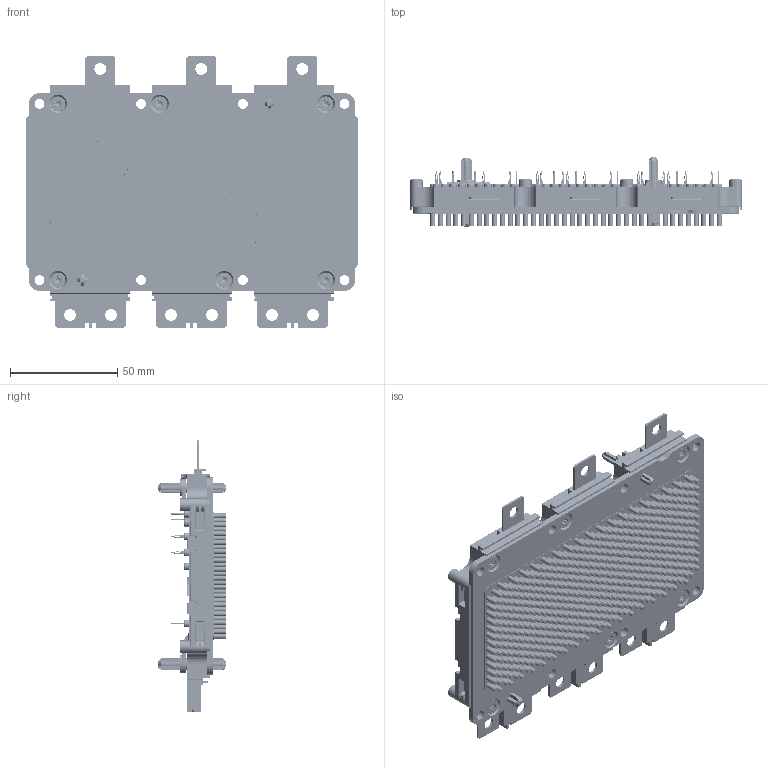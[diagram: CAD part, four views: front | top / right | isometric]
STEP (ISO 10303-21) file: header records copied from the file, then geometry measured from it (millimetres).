
FILE_DESCRIPTION (( 'STEP AP214' ), '1' );
FILE_NAME ('ECBXRXM12YM3_External_v4.STEP', '2025-03-07T21:37:19', ( '' ), ( '' ), 'SwSTEP 2.0', 'SolidWorks 2024', '' );
FILE_SCHEMA (( 'AUTOMOTIVE_DESIGN' ));
Products named in the file (1): ECBXRXM12YM3_External_v4
Bounding box: 154.5 x 32 x 126.5 mm (x, y, z)
Volume: 167552.8 mm3; surface area: 97146.6 mm2
Topology: 1 solids, 1 shells, 7436 faces, 20746 edges, 13876 vertices
Faces by surface type: cylinder 3732, plane 2192, torus 773, bspline 476, cone 213, sphere 50
Entity records: 314172 total; most frequent: CARTESIAN_POINT 133686, ORIENTED_EDGE 41250, DIRECTION 33048, EDGE_CURVE 20625, VERTEX_POINT 13867, AXIS2_PLACEMENT_3D 12557, EDGE_LOOP 8398, VECTOR 7934
